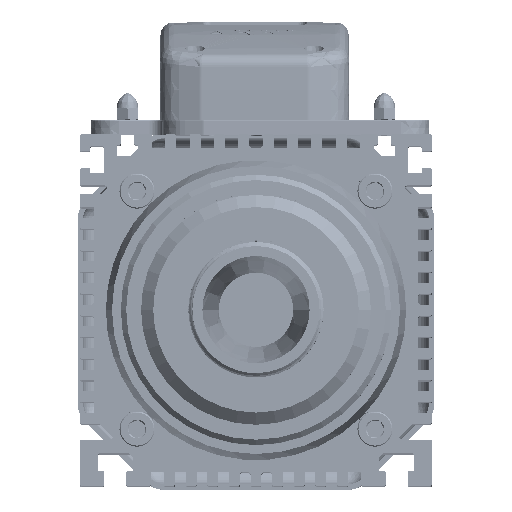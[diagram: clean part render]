
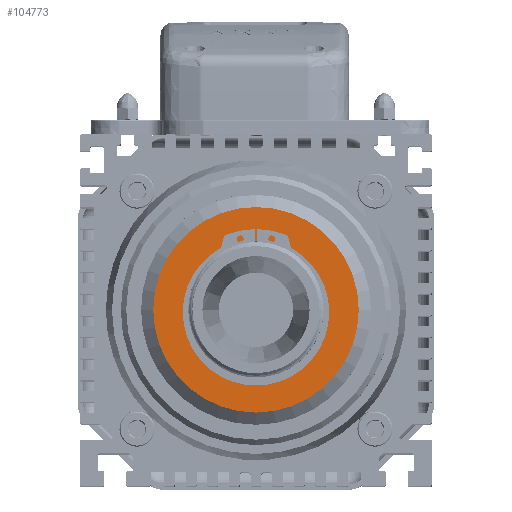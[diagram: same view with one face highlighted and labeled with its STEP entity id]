
A CAD part, top view. The second image highlights one B-rep face of the part: STEP entity #104773.
In plain terms, the highlighted planar face has unit normal (0, 0, 1).
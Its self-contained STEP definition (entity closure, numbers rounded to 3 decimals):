
#348 = DIRECTION ( 'NONE',  ( -1., 0., 0. ) ) ;
#392 = DIRECTION ( 'NONE',  ( 0., 0., -1. ) ) ;
#4090 = DIRECTION ( 'NONE',  ( 0., 0., 1. ) ) ;
#5272 = CARTESIAN_POINT ( 'NONE',  ( -38., 0., 0. ) ) ;
#7581 = ORIENTED_EDGE ( 'NONE', *, *, #44822, .T. ) ;
#9585 = DIRECTION ( 'NONE',  ( 0., 0., -1. ) ) ;
#11120 = DIRECTION ( 'NONE',  ( 0., 0., -1. ) ) ;
#11164 = CARTESIAN_POINT ( 'NONE',  ( 0., 0., 0. ) ) ;
#14524 = EDGE_LOOP ( 'NONE', ( #7581, #80326 ) ) ;
#16133 = FACE_BOUND ( 'NONE', #14524, .T. ) ;
#17358 = CARTESIAN_POINT ( 'NONE',  ( 0., 0., 0. ) ) ;
#18854 = FACE_OUTER_BOUND ( 'NONE', #44496, .T. ) ;
#19173 = AXIS2_PLACEMENT_3D ( 'NONE', #21866, #11120, #348 ) ;
#20363 = CARTESIAN_POINT ( 'NONE',  ( 0., 38., 0. ) ) ;
#21866 = CARTESIAN_POINT ( 'NONE',  ( 0., 0., 0. ) ) ;
#23462 = EDGE_CURVE ( 'NONE', #62842, #98520, #41854, .T. ) ;
#26944 = AXIS2_PLACEMENT_3D ( 'NONE', #20363, #9585, #103997 ) ;
#31052 = PLANE ( 'NONE',  #26944 ) ;
#32893 = AXIS2_PLACEMENT_3D ( 'NONE', #11164, #392, #94796 ) ;
#33840 = EDGE_CURVE ( 'NONE', #101984, #53290, #72751, .T. ) ;
#36413 = ORIENTED_EDGE ( 'NONE', *, *, #33840, .T. ) ;
#41854 = CIRCLE ( 'NONE', #32893, 26. ) ;
#44496 = EDGE_LOOP ( 'NONE', ( #36413, #103741 ) ) ;
#44753 = AXIS2_PLACEMENT_3D ( 'NONE', #86609, #75833, #65009 ) ;
#44822 = EDGE_CURVE ( 'NONE', #98520, #62842, #58423, .T. ) ;
#50217 = EDGE_CURVE ( 'NONE', #53290, #101984, #54382, .T. ) ;
#53290 = VERTEX_POINT ( 'NONE', #80358 ) ;
#53358 = AXIS2_PLACEMENT_3D ( 'NONE', #17358, #4090, #98488 ) ;
#54382 = CIRCLE ( 'NONE', #44753, 38. ) ;
#58423 = CIRCLE ( 'NONE', #19173, 26. ) ;
#62842 = VERTEX_POINT ( 'NONE', #86670 ) ;
#65009 = DIRECTION ( 'NONE',  ( 1., 0., 0. ) ) ;
#72751 = CIRCLE ( 'NONE', #53358, 38. ) ;
#75833 = DIRECTION ( 'NONE',  ( 0., 0., 1. ) ) ;
#80326 = ORIENTED_EDGE ( 'NONE', *, *, #23462, .T. ) ;
#80358 = CARTESIAN_POINT ( 'NONE',  ( 38., 0., 0. ) ) ;
#85319 = CARTESIAN_POINT ( 'NONE',  ( -26., 0., 0. ) ) ;
#86609 = CARTESIAN_POINT ( 'NONE',  ( 0., 0., 0. ) ) ;
#86670 = CARTESIAN_POINT ( 'NONE',  ( 26., 0., 0. ) ) ;
#94796 = DIRECTION ( 'NONE',  ( -1., 0., 0. ) ) ;
#98488 = DIRECTION ( 'NONE',  ( 1., 0., 0. ) ) ;
#98520 = VERTEX_POINT ( 'NONE', #85319 ) ;
#101984 = VERTEX_POINT ( 'NONE', #5272 ) ;
#103741 = ORIENTED_EDGE ( 'NONE', *, *, #50217, .T. ) ;
#103997 = DIRECTION ( 'NONE',  ( -1., 0., 0. ) ) ;
#104773 = ADVANCED_FACE ( 'NONE', ( #16133, #18854 ), #31052, .F. ) ;
